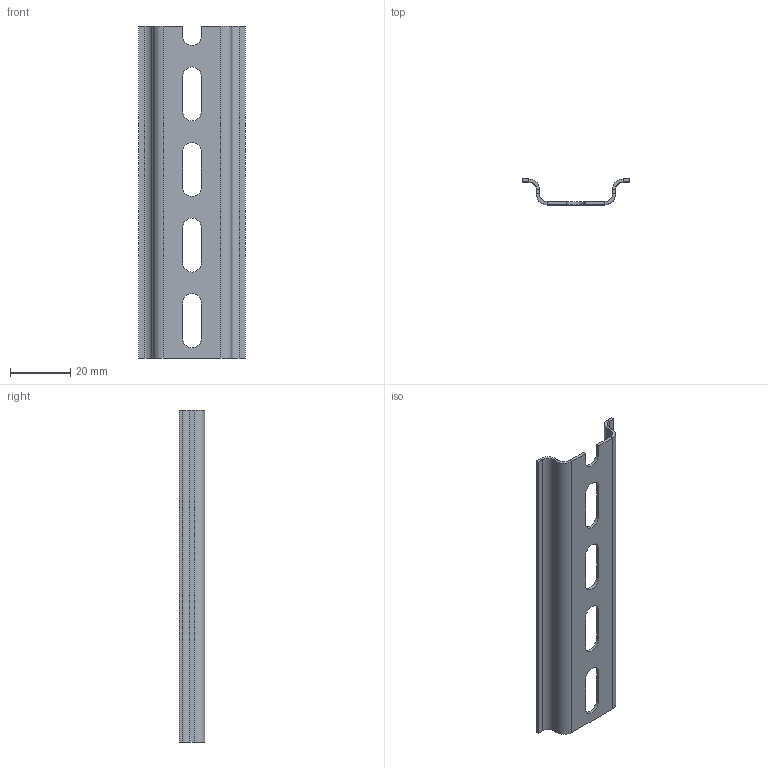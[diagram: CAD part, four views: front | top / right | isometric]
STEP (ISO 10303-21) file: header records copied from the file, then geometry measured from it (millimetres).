
FILE_DESCRIPTION (( 'STEP AP214' ), '1' );
FILE_NAME ('DIN-ðåéêà 110ìì õ 0,1 ìì.STEP', '2025-10-22T11:39:45', ( '' ), ( '' ), 'SwSTEP 2.0', 'SolidWorks 2018', '' );
FILE_SCHEMA (( 'AUTOMOTIVE_DESIGN' ));
Length unit declared in the file: millimetre
Products named in the file (1): DIN-ðåéêà 110ìì õ 0,1 ìì
Bounding box: 35.2 x 8.5 x 110 mm (x, y, z)
Volume: 4512.3 mm3; surface area: 9516.1 mm2
Topology: 1 solids, 1 shells, 62 faces, 148 edges, 88 vertices
Faces by surface type: plane 41, cylinder 21
Entity records: 1808 total; most frequent: DIRECTION 316, CARTESIAN_POINT 299, ORIENTED_EDGE 296, EDGE_CURVE 148, VECTOR 106, LINE 106, AXIS2_PLACEMENT_3D 105, VERTEX_POINT 88
